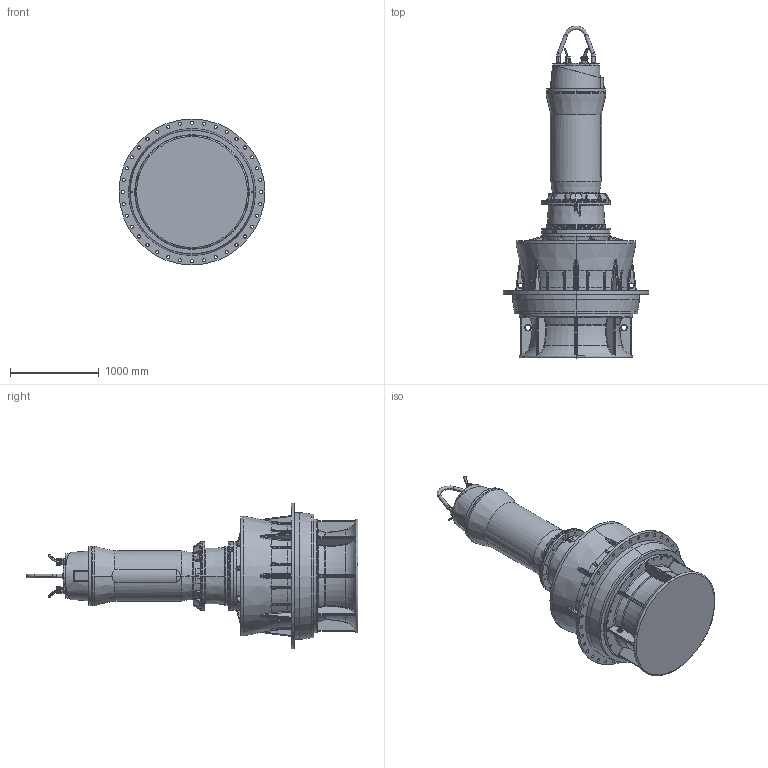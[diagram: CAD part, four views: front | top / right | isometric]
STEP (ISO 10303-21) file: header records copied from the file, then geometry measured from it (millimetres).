
FILE_DESCRIPTION (( 'STEP AP214' ), '1' );
FILE_NAME ('PE7_VUPX1200G3_DIN_A.STEP', '2017-05-05T11:50:18', ( '' ), ( '' ), 'SwSTEP 2.0', 'SolidWorks 2017', '' );
FILE_SCHEMA (( 'AUTOMOTIVE_DESIGN' ));
Length unit declared in the file: millimetre
Products named in the file (1): PE7_VUPX1200G3_DIN_A
Bounding box: 1642 x 3734 x 1642 mm (x, y, z)
Volume: 2081521804.2 mm3; surface area: 18544835.8 mm2
Topology: 4 solids, 31 shells, 4174 faces, 10136 edges, 5870 vertices
Faces by surface type: bspline 1263, cylinder 1038, plane 876, torus 466, cone 404, sphere 127
Entity records: 236159 total; most frequent: CARTESIAN_POINT 103273, ORIENTED_EDGE 19696, DIRECTION 16173, EDGE_CURVE 9848, AXIS2_PLACEMENT_3D 6716, VERTEX_POINT 5869, EDGE_LOOP 4447, UNCERTAINTY_MEASURE_WITH_UNIT 4180
